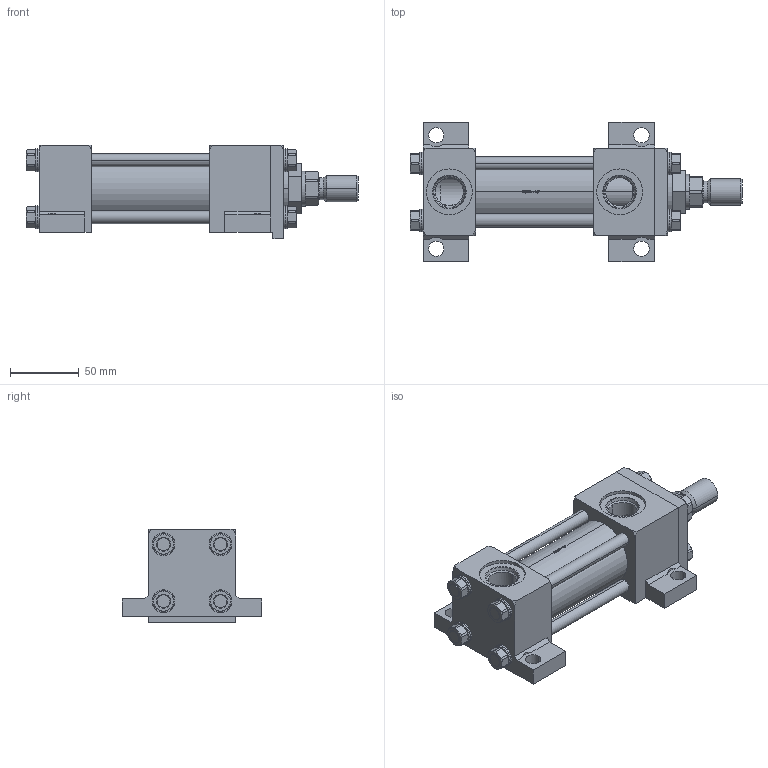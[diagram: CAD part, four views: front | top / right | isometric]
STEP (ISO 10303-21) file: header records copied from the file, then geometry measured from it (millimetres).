
FILE_DESCRIPTION (( 'STEP AP214' ), '1' );
FILE_NAME ('1.50CP2HHNAT124A2.000.step', '2026-03-26T21:16:37', ( '' ), ( '' ), 'SwSTEP 2.0', 'SolidWorks 2023', '' );
FILE_SCHEMA (( 'AUTOMOTIVE_DESIGN' ));
Length unit declared in the file: inch
Products named in the file (1): 1.50CP2HHNAT124A2.000
Bounding box: 241.3 x 101.6 x 68.26 mm (x, y, z)
Volume: 541030.9 mm3; surface area: 167594.2 mm2
Topology: 46 solids, 46 shells, 1220 faces, 3147 edges, 2026 vertices
Faces by surface type: plane 798, cylinder 219, cone 163, bspline 32, torus 8
Entity records: 54970 total; most frequent: CARTESIAN_POINT 10729, ORIENTED_EDGE 6294, DIRECTION 5149, EDGE_CURVE 3147, VERTEX_POINT 2026, AXIS2_PLACEMENT_3D 1743, VECTOR 1663, LINE 1663
